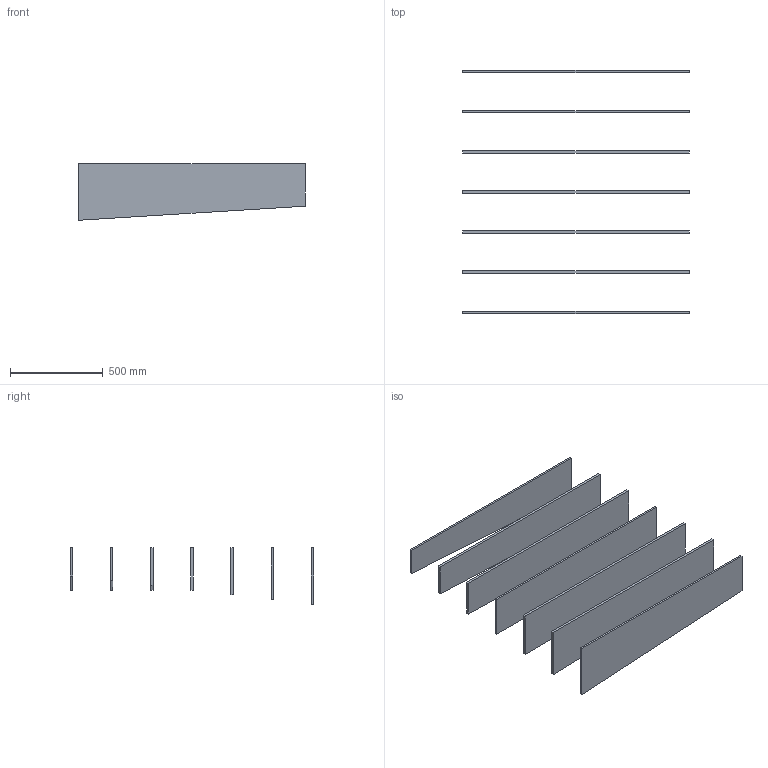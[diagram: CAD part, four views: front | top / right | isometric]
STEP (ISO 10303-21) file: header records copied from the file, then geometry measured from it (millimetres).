
FILE_DESCRIPTION(/* description */ (''),/* implementation_level */ '2;1');
FILE_NAME(/* name */ 'Topo Zig Half Simplified',/* time_stamp */ '2026-04-13T11:44:15-05:00',/* author */ (''),/* organization */ (''),/* preprocessor_version */ 'ST-DEVELOPER v19.2',/* originating_system */ 'Rhino 8.29',/* authorisation */ '');
FILE_SCHEMA (('CONFIG_CONTROL_DESIGN'));
Length unit declared in the file: inch
Products named in the file (1): Document
Bounding box: 1219.2 x 1308.1 x 304.8 mm (x, y, z)
Volume: 24777240.8 mm3; surface area: 4159440.5 mm2
Topology: 7 solids, 7 shells, 42 faces, 84 edges, 56 vertices
Faces by surface type: plane 42
Entity records: 1018 total; most frequent: CARTESIAN_POINT 268, ORIENTED_EDGE 168, EDGE_CURVE 84, B_SPLINE_CURVE_WITH_KNOTS 84, VERTEX_POINT 56, DIRECTION 46, AXIS2_PLACEMENT_3D 44, ADVANCED_FACE 42
